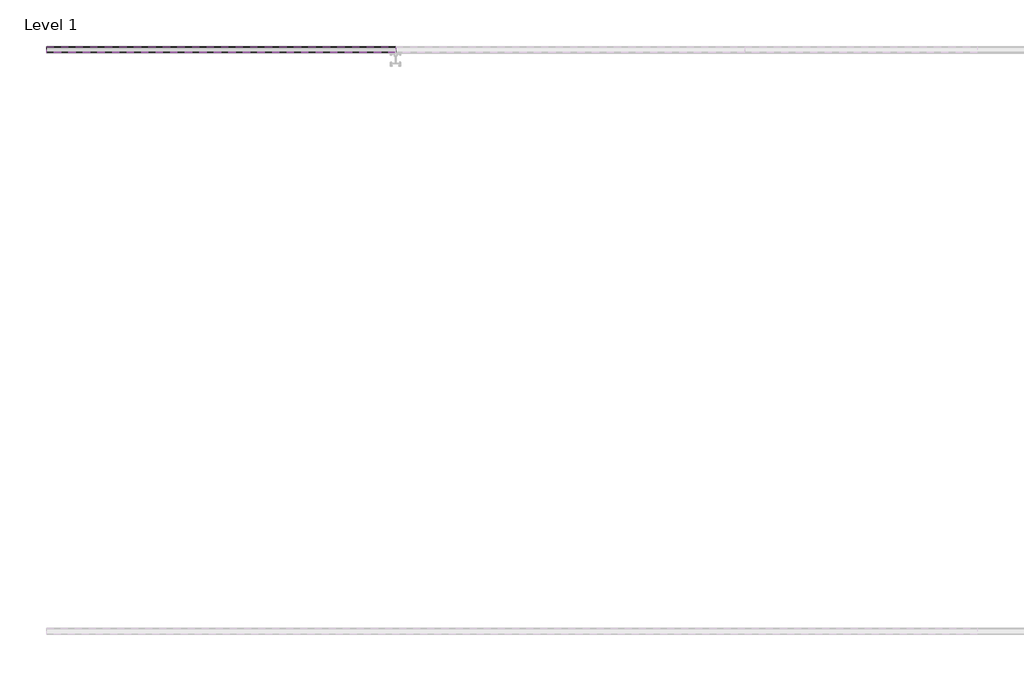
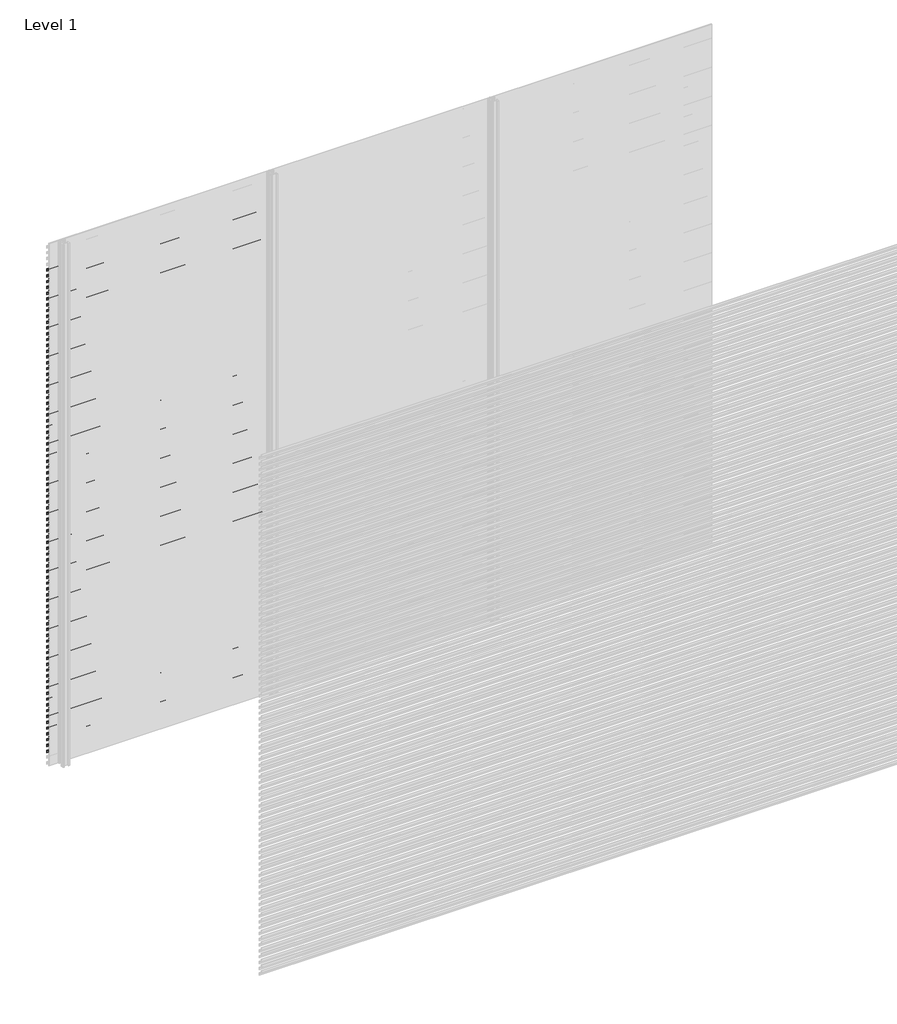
# One storey, part 31 of 507: 84 proxies.
"""IFC4 building model written with IfcOpenShell, lengths in millimetres."""

from ifc_helpers import new_model, si_unit, frame, origin, place, context, project, spatial, polyline, outline, extrude, element, save

model = new_model("IFC4")

# Units and contexts
model_context = context("Model", 3, world=origin())
ifc_project = project(units=[si_unit("LENGTHUNIT", "METRE", prefix="MILLI")], contexts=[model_context])

# Site, building, storey
site = spatial("IfcSite", under=ifc_project)
building = spatial("IfcBuilding", under=site)
storey = spatial("IfcBuildingStorey", under=building, Name="Level 1", Elevation=0.0)

# Proxies
placement = place(None, origin())
element("IfcBuildingElementProxy", 1, Name="Wall Sweeps", at=placement, inside=storey, context=model_context, shape_type="SweptSolid", body=[
    extrude(outline(polyline([(21503.4540136, 2839.8), (21503.4540136, 2826.3), (21502.2040136, 2827.0216933), (21502.2040136, 2839.0782281), (21483.0540136, 2850.1345698), (21483.0540136, 2863.8), (21484.3040136, 2863.8), (21484.3040136, 2850.8562577), (21503.4540136, 2839.8)])), frame((44966.6208097, 0.0, 0.0), z_axis=(1.0, 0.0, 0.0), x_axis=(0.0, 1.0, 0.0)), (0.0, 0.0, 1.0), 1200.0000002),
])
element("IfcBuildingElementProxy", 2, Name="Wall Sweeps", at=placement, inside=storey, context=model_context, shape_type="SweptSolid", body=[
    extrude(outline(polyline([(21503.4540136, 2806.5), (21503.4540136, 2793.0), (21502.2040136, 2793.7216933), (21502.2040136, 2805.7782281), (21483.0540136, 2816.8345698), (21483.0540136, 2830.5), (21484.3040136, 2830.5), (21484.3040136, 2817.5562577), (21503.4540136, 2806.5)])), frame((44966.6208097, 0.0, 0.0), z_axis=(1.0, 0.0, 0.0), x_axis=(0.0, 1.0, 0.0)), (0.0, 0.0, 1.0), 1200.0000002),
])
element("IfcBuildingElementProxy", 3, Name="Wall Sweeps", at=placement, inside=storey, context=model_context, shape_type="SweptSolid", body=[
    extrude(outline(polyline([(21503.4540136, 2773.2), (21503.4540136, 2759.7), (21502.2040136, 2760.4216933), (21502.2040136, 2772.4782281), (21483.0540136, 2783.5345698), (21483.0540136, 2797.2), (21484.3040136, 2797.2), (21484.3040136, 2784.2562577), (21503.4540136, 2773.2)])), frame((44966.6208097, 0.0, 0.0), z_axis=(1.0, 0.0, 0.0), x_axis=(0.0, 1.0, 0.0)), (0.0, 0.0, 1.0), 1200.0000002),
])
element("IfcBuildingElementProxy", 4, Name="Wall Sweeps", at=placement, inside=storey, context=model_context, shape_type="SweptSolid", body=[
    extrude(outline(polyline([(21503.4540136, 2739.9), (21503.4540136, 2726.4), (21502.2040136, 2727.1216933), (21502.2040136, 2739.1782281), (21483.0540136, 2750.2345698), (21483.0540136, 2763.9), (21484.3040136, 2763.9), (21484.3040136, 2750.9562577), (21503.4540136, 2739.9)])), frame((44966.6208097, 0.0, 0.0), z_axis=(1.0, 0.0, 0.0), x_axis=(0.0, 1.0, 0.0)), (0.0, 0.0, 1.0), 1200.0000002),
])
element("IfcBuildingElementProxy", 5, Name="Wall Sweeps", at=placement, inside=storey, context=model_context, shape_type="SweptSolid", body=[
    extrude(outline(polyline([(21503.4540136, 2706.6), (21503.4540136, 2693.1), (21502.2040136, 2693.8216933), (21502.2040136, 2705.8782281), (21483.0540136, 2716.9345698), (21483.0540136, 2730.6), (21484.3040136, 2730.6), (21484.3040136, 2717.6562577), (21503.4540136, 2706.6)])), frame((44966.6208097, 0.0, 0.0), z_axis=(1.0, 0.0, 0.0), x_axis=(0.0, 1.0, 0.0)), (0.0, 0.0, 1.0), 1200.0000002),
])
element("IfcBuildingElementProxy", 6, Name="Wall Sweeps", at=placement, inside=storey, context=model_context, shape_type="SweptSolid", body=[
    extrude(outline(polyline([(21503.4540136, 2673.3), (21503.4540136, 2659.8), (21502.2040136, 2660.5216933), (21502.2040136, 2672.5782281), (21483.0540136, 2683.6345698), (21483.0540136, 2697.3), (21484.3040136, 2697.3), (21484.3040136, 2684.3562577), (21503.4540136, 2673.3)])), frame((44966.6208097, 0.0, 0.0), z_axis=(1.0, 0.0, 0.0), x_axis=(0.0, 1.0, 0.0)), (0.0, 0.0, 1.0), 1200.0000002),
])
element("IfcBuildingElementProxy", 7, Name="Wall Sweeps", at=placement, inside=storey, context=model_context, shape_type="SweptSolid", body=[
    extrude(outline(polyline([(21503.4540136, 2640.0), (21503.4540136, 2626.5), (21502.2040136, 2627.2216933), (21502.2040136, 2639.2782281), (21483.0540136, 2650.3345698), (21483.0540136, 2664.0), (21484.3040136, 2664.0), (21484.3040136, 2651.0562577), (21503.4540136, 2640.0)])), frame((44966.6208097, 0.0, 0.0), z_axis=(1.0, 0.0, 0.0), x_axis=(0.0, 1.0, 0.0)), (0.0, 0.0, 1.0), 1200.0000002),
])
element("IfcBuildingElementProxy", 8, Name="Wall Sweeps", at=placement, inside=storey, context=model_context, shape_type="SweptSolid", body=[
    extrude(outline(polyline([(21503.4540136, 2606.7), (21503.4540136, 2593.2), (21502.2040136, 2593.9216933), (21502.2040136, 2605.9782281), (21483.0540136, 2617.0345698), (21483.0540136, 2630.7), (21484.3040136, 2630.7), (21484.3040136, 2617.7562577), (21503.4540136, 2606.7)])), frame((44966.6208097, 0.0, 0.0), z_axis=(1.0, 0.0, 0.0), x_axis=(0.0, 1.0, 0.0)), (0.0, 0.0, 1.0), 1200.0000002),
])
element("IfcBuildingElementProxy", 9, Name="Wall Sweeps", at=placement, inside=storey, context=model_context, shape_type="SweptSolid", body=[
    extrude(outline(polyline([(21503.4540136, 2573.4), (21503.4540136, 2559.9), (21502.2040136, 2560.6216933), (21502.2040136, 2572.6782281), (21483.0540136, 2583.7345698), (21483.0540136, 2597.4), (21484.3040136, 2597.4), (21484.3040136, 2584.4562577), (21503.4540136, 2573.4)])), frame((44966.6208097, 0.0, 0.0), z_axis=(1.0, 0.0, 0.0), x_axis=(0.0, 1.0, 0.0)), (0.0, 0.0, 1.0), 1200.0000002),
])
element("IfcBuildingElementProxy", 10, Name="Wall Sweeps", at=placement, inside=storey, context=model_context, shape_type="SweptSolid", body=[
    extrude(outline(polyline([(21503.4540136, 2540.1), (21503.4540136, 2526.6), (21502.2040136, 2527.3216933), (21502.2040136, 2539.3782281), (21483.0540136, 2550.4345698), (21483.0540136, 2564.1), (21484.3040136, 2564.1), (21484.3040136, 2551.1562577), (21503.4540136, 2540.1)])), frame((44966.6208097, 0.0, 0.0), z_axis=(1.0, 0.0, 0.0), x_axis=(0.0, 1.0, 0.0)), (0.0, 0.0, 1.0), 1200.0000002),
])
element("IfcBuildingElementProxy", 11, Name="Wall Sweeps", at=placement, inside=storey, context=model_context, shape_type="SweptSolid", body=[
    extrude(outline(polyline([(21503.4540136, 2506.8), (21503.4540136, 2493.3), (21502.2040136, 2494.0216933), (21502.2040136, 2506.0782281), (21483.0540136, 2517.1345698), (21483.0540136, 2530.8), (21484.3040136, 2530.8), (21484.3040136, 2517.8562577), (21503.4540136, 2506.8)])), frame((44966.6208097, 0.0, 0.0), z_axis=(1.0, 0.0, 0.0), x_axis=(0.0, 1.0, 0.0)), (0.0, 0.0, 1.0), 1200.0000002),
])
element("IfcBuildingElementProxy", 12, Name="Wall Sweeps", at=placement, inside=storey, context=model_context, shape_type="SweptSolid", body=[
    extrude(outline(polyline([(21503.4540136, 2473.5), (21503.4540136, 2460.0), (21502.2040136, 2460.7216933), (21502.2040136, 2472.7782281), (21483.0540136, 2483.8345698), (21483.0540136, 2497.5), (21484.3040136, 2497.5), (21484.3040136, 2484.5562577), (21503.4540136, 2473.5)])), frame((44966.6208097, 0.0, 0.0), z_axis=(1.0, 0.0, 0.0), x_axis=(0.0, 1.0, 0.0)), (0.0, 0.0, 1.0), 1200.0000002),
])
element("IfcBuildingElementProxy", 13, Name="Wall Sweeps", at=placement, inside=storey, context=model_context, shape_type="SweptSolid", body=[
    extrude(outline(polyline([(21503.4540136, 2440.2), (21503.4540136, 2426.7), (21502.2040136, 2427.4216933), (21502.2040136, 2439.4782281), (21483.0540136, 2450.5345698), (21483.0540136, 2464.2), (21484.3040136, 2464.2), (21484.3040136, 2451.2562577), (21503.4540136, 2440.2)])), frame((44966.6208097, 0.0, 0.0), z_axis=(1.0, 0.0, 0.0), x_axis=(0.0, 1.0, 0.0)), (0.0, 0.0, 1.0), 1200.0000002),
])
element("IfcBuildingElementProxy", 14, Name="Wall Sweeps", at=placement, inside=storey, context=model_context, shape_type="SweptSolid", body=[
    extrude(outline(polyline([(21503.4540136, 2406.9), (21503.4540136, 2393.4), (21502.2040136, 2394.1216933), (21502.2040136, 2406.1782281), (21483.0540136, 2417.2345698), (21483.0540136, 2430.9), (21484.3040136, 2430.9), (21484.3040136, 2417.9562577), (21503.4540136, 2406.9)])), frame((44966.6208097, 0.0, 0.0), z_axis=(1.0, 0.0, 0.0), x_axis=(0.0, 1.0, 0.0)), (0.0, 0.0, 1.0), 1200.0000002),
])
element("IfcBuildingElementProxy", 15, Name="Wall Sweeps", at=placement, inside=storey, context=model_context, shape_type="SweptSolid", body=[
    extrude(outline(polyline([(21503.4540136, 2373.6), (21503.4540136, 2360.1), (21502.2040136, 2360.8216933), (21502.2040136, 2372.8782281), (21483.0540136, 2383.9345698), (21483.0540136, 2397.6), (21484.3040136, 2397.6), (21484.3040136, 2384.6562577), (21503.4540136, 2373.6)])), frame((44966.6208097, 0.0, 0.0), z_axis=(1.0, 0.0, 0.0), x_axis=(0.0, 1.0, 0.0)), (0.0, 0.0, 1.0), 1200.0000002),
])
element("IfcBuildingElementProxy", 16, Name="Wall Sweeps", at=placement, inside=storey, context=model_context, shape_type="SweptSolid", body=[
    extrude(outline(polyline([(21503.4540136, 2340.3), (21503.4540136, 2326.8), (21502.2040136, 2327.5216933), (21502.2040136, 2339.5782281), (21483.0540136, 2350.6345698), (21483.0540136, 2364.3), (21484.3040136, 2364.3), (21484.3040136, 2351.3562577), (21503.4540136, 2340.3)])), frame((44966.6208097, 0.0, 0.0), z_axis=(1.0, 0.0, 0.0), x_axis=(0.0, 1.0, 0.0)), (0.0, 0.0, 1.0), 1200.0000002),
])
element("IfcBuildingElementProxy", 17, Name="Wall Sweeps", at=placement, inside=storey, context=model_context, shape_type="SweptSolid", body=[
    extrude(outline(polyline([(21503.4540136, 2307.0), (21503.4540136, 2293.5), (21502.2040136, 2294.2216933), (21502.2040136, 2306.2782281), (21483.0540136, 2317.3345698), (21483.0540136, 2331.0), (21484.3040136, 2331.0), (21484.3040136, 2318.0562577), (21503.4540136, 2307.0)])), frame((44966.6208097, 0.0, 0.0), z_axis=(1.0, 0.0, 0.0), x_axis=(0.0, 1.0, 0.0)), (0.0, 0.0, 1.0), 1200.0000002),
])
element("IfcBuildingElementProxy", 18, Name="Wall Sweeps", at=placement, inside=storey, context=model_context, shape_type="SweptSolid", body=[
    extrude(outline(polyline([(21503.4540136, 2273.7), (21503.4540136, 2260.2), (21502.2040136, 2260.9216933), (21502.2040136, 2272.9782281), (21483.0540136, 2284.0345698), (21483.0540136, 2297.7), (21484.3040136, 2297.7), (21484.3040136, 2284.7562577), (21503.4540136, 2273.7)])), frame((44966.6208097, 0.0, 0.0), z_axis=(1.0, 0.0, 0.0), x_axis=(0.0, 1.0, 0.0)), (0.0, 0.0, 1.0), 1200.0000002),
])
element("IfcBuildingElementProxy", 19, Name="Wall Sweeps", at=placement, inside=storey, context=model_context, shape_type="SweptSolid", body=[
    extrude(outline(polyline([(21503.4540136, 2240.4), (21503.4540136, 2226.9), (21502.2040136, 2227.6216933), (21502.2040136, 2239.6782281), (21483.0540136, 2250.7345698), (21483.0540136, 2264.4), (21484.3040136, 2264.4), (21484.3040136, 2251.4562577), (21503.4540136, 2240.4)])), frame((44966.6208097, 0.0, 0.0), z_axis=(1.0, 0.0, 0.0), x_axis=(0.0, 1.0, 0.0)), (0.0, 0.0, 1.0), 1200.0000002),
])
element("IfcBuildingElementProxy", 20, Name="Wall Sweeps", at=placement, inside=storey, context=model_context, shape_type="SweptSolid", body=[
    extrude(outline(polyline([(21503.4540136, 2207.1), (21503.4540136, 2193.6), (21502.2040136, 2194.3216933), (21502.2040136, 2206.3782281), (21483.0540136, 2217.4345698), (21483.0540136, 2231.1), (21484.3040136, 2231.1), (21484.3040136, 2218.1562577), (21503.4540136, 2207.1)])), frame((44966.6208097, 0.0, 0.0), z_axis=(1.0, 0.0, 0.0), x_axis=(0.0, 1.0, 0.0)), (0.0, 0.0, 1.0), 1200.0000002),
])
element("IfcBuildingElementProxy", 21, Name="Wall Sweeps", at=placement, inside=storey, context=model_context, shape_type="SweptSolid", body=[
    extrude(outline(polyline([(21503.4540136, 2173.8), (21503.4540136, 2160.3), (21502.2040136, 2161.0216933), (21502.2040136, 2173.0782281), (21483.0540136, 2184.1345698), (21483.0540136, 2197.8), (21484.3040136, 2197.8), (21484.3040136, 2184.8562577), (21503.4540136, 2173.8)])), frame((44966.6208097, 0.0, 0.0), z_axis=(1.0, 0.0, 0.0), x_axis=(0.0, 1.0, 0.0)), (0.0, 0.0, 1.0), 1200.0000002),
])
element("IfcBuildingElementProxy", 22, Name="Wall Sweeps", at=placement, inside=storey, context=model_context, shape_type="SweptSolid", body=[
    extrude(outline(polyline([(21503.4540136, 2140.5), (21503.4540136, 2127.0), (21502.2040136, 2127.7216933), (21502.2040136, 2139.7782281), (21483.0540136, 2150.8345698), (21483.0540136, 2164.5), (21484.3040136, 2164.5), (21484.3040136, 2151.5562577), (21503.4540136, 2140.5)])), frame((44966.6208097, 0.0, 0.0), z_axis=(1.0, 0.0, 0.0), x_axis=(0.0, 1.0, 0.0)), (0.0, 0.0, 1.0), 1200.0000002),
])
element("IfcBuildingElementProxy", 23, Name="Wall Sweeps", at=placement, inside=storey, context=model_context, shape_type="SweptSolid", body=[
    extrude(outline(polyline([(21503.4540136, 2107.2), (21503.4540136, 2093.7), (21502.2040136, 2094.4216933), (21502.2040136, 2106.4782281), (21483.0540136, 2117.5345698), (21483.0540136, 2131.2), (21484.3040136, 2131.2), (21484.3040136, 2118.2562577), (21503.4540136, 2107.2)])), frame((44966.6208097, 0.0, 0.0), z_axis=(1.0, 0.0, 0.0), x_axis=(0.0, 1.0, 0.0)), (0.0, 0.0, 1.0), 1200.0000002),
])
element("IfcBuildingElementProxy", 24, Name="Wall Sweeps", at=placement, inside=storey, context=model_context, shape_type="SweptSolid", body=[
    extrude(outline(polyline([(21503.4540136, 2073.9), (21503.4540136, 2060.4), (21502.2040136, 2061.1216933), (21502.2040136, 2073.1782281), (21483.0540136, 2084.2345698), (21483.0540136, 2097.9), (21484.3040136, 2097.9), (21484.3040136, 2084.9562577), (21503.4540136, 2073.9)])), frame((44966.6208097, 0.0, 0.0), z_axis=(1.0, 0.0, 0.0), x_axis=(0.0, 1.0, 0.0)), (0.0, 0.0, 1.0), 1200.0000002),
])
element("IfcBuildingElementProxy", 25, Name="Wall Sweeps", at=placement, inside=storey, context=model_context, shape_type="SweptSolid", body=[
    extrude(outline(polyline([(21503.4540136, 2040.6), (21503.4540136, 2027.1), (21502.2040136, 2027.8216933), (21502.2040136, 2039.8782281), (21483.0540136, 2050.9345698), (21483.0540136, 2064.6), (21484.3040136, 2064.6), (21484.3040136, 2051.6562577), (21503.4540136, 2040.6)])), frame((44966.6208097, 0.0, 0.0), z_axis=(1.0, 0.0, 0.0), x_axis=(0.0, 1.0, 0.0)), (0.0, 0.0, 1.0), 1200.0000002),
])
element("IfcBuildingElementProxy", 26, Name="Wall Sweeps", at=placement, inside=storey, context=model_context, shape_type="SweptSolid", body=[
    extrude(outline(polyline([(21503.4540136, 2007.3), (21503.4540136, 1993.8), (21502.2040136, 1994.5216933), (21502.2040136, 2006.5782281), (21483.0540136, 2017.6345698), (21483.0540136, 2031.3), (21484.3040136, 2031.3), (21484.3040136, 2018.3562577), (21503.4540136, 2007.3)])), frame((44966.6208097, 0.0, 0.0), z_axis=(1.0, 0.0, 0.0), x_axis=(0.0, 1.0, 0.0)), (0.0, 0.0, 1.0), 1200.0000002),
])
element("IfcBuildingElementProxy", 27, Name="Wall Sweeps", at=placement, inside=storey, context=model_context, shape_type="SweptSolid", body=[
    extrude(outline(polyline([(21503.4540136, 1974.0), (21503.4540136, 1960.5), (21502.2040136, 1961.2216933), (21502.2040136, 1973.2782281), (21483.0540136, 1984.3345698), (21483.0540136, 1998.0), (21484.3040136, 1998.0), (21484.3040136, 1985.0562577), (21503.4540136, 1974.0)])), frame((44966.6208097, 0.0, 0.0), z_axis=(1.0, 0.0, 0.0), x_axis=(0.0, 1.0, 0.0)), (0.0, 0.0, 1.0), 1200.0000002),
])
element("IfcBuildingElementProxy", 28, Name="Wall Sweeps", at=placement, inside=storey, context=model_context, shape_type="SweptSolid", body=[
    extrude(outline(polyline([(21503.4540136, 1940.7), (21503.4540136, 1927.2), (21502.2040136, 1927.9216933), (21502.2040136, 1939.9782281), (21483.0540136, 1951.0345698), (21483.0540136, 1964.7), (21484.3040136, 1964.7), (21484.3040136, 1951.7562577), (21503.4540136, 1940.7)])), frame((44966.6208097, 0.0, 0.0), z_axis=(1.0, 0.0, 0.0), x_axis=(0.0, 1.0, 0.0)), (0.0, 0.0, 1.0), 1200.0000002),
])
element("IfcBuildingElementProxy", 29, Name="Wall Sweeps", at=placement, inside=storey, context=model_context, shape_type="SweptSolid", body=[
    extrude(outline(polyline([(21503.4540136, 1907.4), (21503.4540136, 1893.9), (21502.2040136, 1894.6216933), (21502.2040136, 1906.6782281), (21483.0540136, 1917.7345698), (21483.0540136, 1931.4), (21484.3040136, 1931.4), (21484.3040136, 1918.4562577), (21503.4540136, 1907.4)])), frame((44966.6208097, 0.0, 0.0), z_axis=(1.0, 0.0, 0.0), x_axis=(0.0, 1.0, 0.0)), (0.0, 0.0, 1.0), 1200.0000002),
])
element("IfcBuildingElementProxy", 30, Name="Wall Sweeps", at=placement, inside=storey, context=model_context, shape_type="SweptSolid", body=[
    extrude(outline(polyline([(21503.4540136, 1874.1), (21503.4540136, 1860.6), (21502.2040136, 1861.3216933), (21502.2040136, 1873.3782281), (21483.0540136, 1884.4345698), (21483.0540136, 1898.1), (21484.3040136, 1898.1), (21484.3040136, 1885.1562577), (21503.4540136, 1874.1)])), frame((44966.6208097, 0.0, 0.0), z_axis=(1.0, 0.0, 0.0), x_axis=(0.0, 1.0, 0.0)), (0.0, 0.0, 1.0), 1200.0000002),
])
element("IfcBuildingElementProxy", 31, Name="Wall Sweeps", at=placement, inside=storey, context=model_context, shape_type="SweptSolid", body=[
    extrude(outline(polyline([(21503.4540136, 1840.8), (21503.4540136, 1827.3), (21502.2040136, 1828.0216933), (21502.2040136, 1840.0782281), (21483.0540136, 1851.1345698), (21483.0540136, 1864.8), (21484.3040136, 1864.8), (21484.3040136, 1851.8562577), (21503.4540136, 1840.8)])), frame((44966.6208097, 0.0, 0.0), z_axis=(1.0, 0.0, 0.0), x_axis=(0.0, 1.0, 0.0)), (0.0, 0.0, 1.0), 1200.0000002),
])
element("IfcBuildingElementProxy", 32, Name="Wall Sweeps", at=placement, inside=storey, context=model_context, shape_type="SweptSolid", body=[
    extrude(outline(polyline([(21503.4540136, 1807.5), (21503.4540136, 1794.0), (21502.2040136, 1794.7216933), (21502.2040136, 1806.7782281), (21483.0540136, 1817.8345698), (21483.0540136, 1831.5), (21484.3040136, 1831.5), (21484.3040136, 1818.5562577), (21503.4540136, 1807.5)])), frame((44966.6208097, 0.0, 0.0), z_axis=(1.0, 0.0, 0.0), x_axis=(0.0, 1.0, 0.0)), (0.0, 0.0, 1.0), 1200.0000002),
])
element("IfcBuildingElementProxy", 33, Name="Wall Sweeps", at=placement, inside=storey, context=model_context, shape_type="SweptSolid", body=[
    extrude(outline(polyline([(21503.4540136, 1774.2), (21503.4540136, 1760.7), (21502.2040136, 1761.4216933), (21502.2040136, 1773.4782281), (21483.0540136, 1784.5345698), (21483.0540136, 1798.2), (21484.3040136, 1798.2), (21484.3040136, 1785.2562577), (21503.4540136, 1774.2)])), frame((44966.6208097, 0.0, 0.0), z_axis=(1.0, 0.0, 0.0), x_axis=(0.0, 1.0, 0.0)), (0.0, 0.0, 1.0), 1200.0000002),
])
element("IfcBuildingElementProxy", 34, Name="Wall Sweeps", at=placement, inside=storey, context=model_context, shape_type="SweptSolid", body=[
    extrude(outline(polyline([(21503.4540136, 1740.9), (21503.4540136, 1727.4), (21502.2040136, 1728.1216933), (21502.2040136, 1740.1782281), (21483.0540136, 1751.2345698), (21483.0540136, 1764.9), (21484.3040136, 1764.9), (21484.3040136, 1751.9562577), (21503.4540136, 1740.9)])), frame((44966.6208097, 0.0, 0.0), z_axis=(1.0, 0.0, 0.0), x_axis=(0.0, 1.0, 0.0)), (0.0, 0.0, 1.0), 1200.0000002),
])
element("IfcBuildingElementProxy", 35, Name="Wall Sweeps", at=placement, inside=storey, context=model_context, shape_type="SweptSolid", body=[
    extrude(outline(polyline([(21503.4540136, 1707.6), (21503.4540136, 1694.1), (21502.2040136, 1694.8216933), (21502.2040136, 1706.8782281), (21483.0540136, 1717.9345698), (21483.0540136, 1731.6), (21484.3040136, 1731.6), (21484.3040136, 1718.6562577), (21503.4540136, 1707.6)])), frame((44966.6208097, 0.0, 0.0), z_axis=(1.0, 0.0, 0.0), x_axis=(0.0, 1.0, 0.0)), (0.0, 0.0, 1.0), 1200.0000002),
])
element("IfcBuildingElementProxy", 36, Name="Wall Sweeps", at=placement, inside=storey, context=model_context, shape_type="SweptSolid", body=[
    extrude(outline(polyline([(21503.4540136, 1674.3), (21503.4540136, 1660.8), (21502.2040136, 1661.5216933), (21502.2040136, 1673.5782281), (21483.0540136, 1684.6345698), (21483.0540136, 1698.3), (21484.3040136, 1698.3), (21484.3040136, 1685.3562577), (21503.4540136, 1674.3)])), frame((44966.6208097, 0.0, 0.0), z_axis=(1.0, 0.0, 0.0), x_axis=(0.0, 1.0, 0.0)), (0.0, 0.0, 1.0), 1200.0000002),
])
element("IfcBuildingElementProxy", 37, Name="Wall Sweeps", at=placement, inside=storey, context=model_context, shape_type="SweptSolid", body=[
    extrude(outline(polyline([(21503.4540136, 1641.0), (21503.4540136, 1627.5), (21502.2040136, 1628.2216933), (21502.2040136, 1640.2782281), (21483.0540136, 1651.3345698), (21483.0540136, 1665.0), (21484.3040136, 1665.0), (21484.3040136, 1652.0562577), (21503.4540136, 1641.0)])), frame((44966.6208097, 0.0, 0.0), z_axis=(1.0, 0.0, 0.0), x_axis=(0.0, 1.0, 0.0)), (0.0, 0.0, 1.0), 1200.0000002),
])
element("IfcBuildingElementProxy", 38, Name="Wall Sweeps", at=placement, inside=storey, context=model_context, shape_type="SweptSolid", body=[
    extrude(outline(polyline([(21503.4540136, 1607.7), (21503.4540136, 1594.2), (21502.2040136, 1594.9216933), (21502.2040136, 1606.9782281), (21483.0540136, 1618.0345698), (21483.0540136, 1631.7), (21484.3040136, 1631.7), (21484.3040136, 1618.7562577), (21503.4540136, 1607.7)])), frame((44966.6208097, 0.0, 0.0), z_axis=(1.0, 0.0, 0.0), x_axis=(0.0, 1.0, 0.0)), (0.0, 0.0, 1.0), 1200.0000002),
])
element("IfcBuildingElementProxy", 39, Name="Wall Sweeps", at=placement, inside=storey, context=model_context, shape_type="SweptSolid", body=[
    extrude(outline(polyline([(21503.4540136, 1574.4), (21503.4540136, 1560.9), (21502.2040136, 1561.6216933), (21502.2040136, 1573.6782281), (21483.0540136, 1584.7345698), (21483.0540136, 1598.4), (21484.3040136, 1598.4), (21484.3040136, 1585.4562577), (21503.4540136, 1574.4)])), frame((44966.6208097, 0.0, 0.0), z_axis=(1.0, 0.0, 0.0), x_axis=(0.0, 1.0, 0.0)), (0.0, 0.0, 1.0), 1200.0000002),
])
element("IfcBuildingElementProxy", 40, Name="Wall Sweeps", at=placement, inside=storey, context=model_context, shape_type="SweptSolid", body=[
    extrude(outline(polyline([(21503.4540136, 1541.1), (21503.4540136, 1527.6), (21502.2040136, 1528.3216933), (21502.2040136, 1540.3782281), (21483.0540136, 1551.4345698), (21483.0540136, 1565.1), (21484.3040136, 1565.1), (21484.3040136, 1552.1562577), (21503.4540136, 1541.1)])), frame((44966.6208097, 0.0, 0.0), z_axis=(1.0, 0.0, 0.0), x_axis=(0.0, 1.0, 0.0)), (0.0, 0.0, 1.0), 1200.0000002),
])
element("IfcBuildingElementProxy", 41, Name="Wall Sweeps", at=placement, inside=storey, context=model_context, shape_type="SweptSolid", body=[
    extrude(outline(polyline([(21503.4540136, 1507.8), (21503.4540136, 1494.3), (21502.2040136, 1495.0216933), (21502.2040136, 1507.0782281), (21483.0540136, 1518.1345698), (21483.0540136, 1531.8), (21484.3040136, 1531.8), (21484.3040136, 1518.8562577), (21503.4540136, 1507.8)])), frame((44966.6208097, 0.0, 0.0), z_axis=(1.0, 0.0, 0.0), x_axis=(0.0, 1.0, 0.0)), (0.0, 0.0, 1.0), 1200.0000002),
])
element("IfcBuildingElementProxy", 42, Name="Wall Sweeps", at=placement, inside=storey, context=model_context, shape_type="SweptSolid", body=[
    extrude(outline(polyline([(21503.4540136, 1474.5), (21503.4540136, 1461.0), (21502.2040136, 1461.7216933), (21502.2040136, 1473.7782281), (21483.0540136, 1484.8345698), (21483.0540136, 1498.5), (21484.3040136, 1498.5), (21484.3040136, 1485.5562577), (21503.4540136, 1474.5)])), frame((44966.6208097, 0.0, 0.0), z_axis=(1.0, 0.0, 0.0), x_axis=(0.0, 1.0, 0.0)), (0.0, 0.0, 1.0), 1200.0000002),
])
element("IfcBuildingElementProxy", 43, Name="Wall Sweeps", at=placement, inside=storey, context=model_context, shape_type="SweptSolid", body=[
    extrude(outline(polyline([(21503.4540136, 1441.2), (21503.4540136, 1427.7), (21502.2040136, 1428.4216933), (21502.2040136, 1440.4782281), (21483.0540136, 1451.5345698), (21483.0540136, 1465.2), (21484.3040136, 1465.2), (21484.3040136, 1452.2562577), (21503.4540136, 1441.2)])), frame((44966.6208097, 0.0, 0.0), z_axis=(1.0, 0.0, 0.0), x_axis=(0.0, 1.0, 0.0)), (0.0, 0.0, 1.0), 1200.0000002),
])
element("IfcBuildingElementProxy", 44, Name="Wall Sweeps", at=placement, inside=storey, context=model_context, shape_type="SweptSolid", body=[
    extrude(outline(polyline([(21503.4540136, 1407.9), (21503.4540136, 1394.4), (21502.2040136, 1395.1216933), (21502.2040136, 1407.1782281), (21483.0540136, 1418.2345698), (21483.0540136, 1431.9), (21484.3040136, 1431.9), (21484.3040136, 1418.9562577), (21503.4540136, 1407.9)])), frame((44966.6208097, 0.0, 0.0), z_axis=(1.0, 0.0, 0.0), x_axis=(0.0, 1.0, 0.0)), (0.0, 0.0, 1.0), 1200.0000002),
])
element("IfcBuildingElementProxy", 45, Name="Wall Sweeps", at=placement, inside=storey, context=model_context, shape_type="SweptSolid", body=[
    extrude(outline(polyline([(21503.4540136, 1374.6), (21503.4540136, 1361.1), (21502.2040136, 1361.8216933), (21502.2040136, 1373.8782281), (21483.0540136, 1384.9345698), (21483.0540136, 1398.6), (21484.3040136, 1398.6), (21484.3040136, 1385.6562577), (21503.4540136, 1374.6)])), frame((44966.6208097, 0.0, 0.0), z_axis=(1.0, 0.0, 0.0), x_axis=(0.0, 1.0, 0.0)), (0.0, 0.0, 1.0), 1200.0000002),
])
element("IfcBuildingElementProxy", 46, Name="Wall Sweeps", at=placement, inside=storey, context=model_context, shape_type="SweptSolid", body=[
    extrude(outline(polyline([(21503.4540136, 1341.3), (21503.4540136, 1327.8), (21502.2040136, 1328.5216933), (21502.2040136, 1340.5782281), (21483.0540136, 1351.6345698), (21483.0540136, 1365.3), (21484.3040136, 1365.3), (21484.3040136, 1352.3562577), (21503.4540136, 1341.3)])), frame((44966.6208097, 0.0, 0.0), z_axis=(1.0, 0.0, 0.0), x_axis=(0.0, 1.0, 0.0)), (0.0, 0.0, 1.0), 1200.0000002),
])
element("IfcBuildingElementProxy", 47, Name="Wall Sweeps", at=placement, inside=storey, context=model_context, shape_type="SweptSolid", body=[
    extrude(outline(polyline([(21503.4540136, 1308.0), (21503.4540136, 1294.5), (21502.2040136, 1295.2216933), (21502.2040136, 1307.2782281), (21483.0540136, 1318.3345698), (21483.0540136, 1332.0), (21484.3040136, 1332.0), (21484.3040136, 1319.0562577), (21503.4540136, 1308.0)])), frame((44966.6208097, 0.0, 0.0), z_axis=(1.0, 0.0, 0.0), x_axis=(0.0, 1.0, 0.0)), (0.0, 0.0, 1.0), 1200.0000002),
])
element("IfcBuildingElementProxy", 48, Name="Wall Sweeps", at=placement, inside=storey, context=model_context, shape_type="SweptSolid", body=[
    extrude(outline(polyline([(21503.4540136, 1274.7), (21503.4540136, 1261.2), (21502.2040136, 1261.9216933), (21502.2040136, 1273.9782281), (21483.0540136, 1285.0345698), (21483.0540136, 1298.7), (21484.3040136, 1298.7), (21484.3040136, 1285.7562577), (21503.4540136, 1274.7)])), frame((44966.6208097, 0.0, 0.0), z_axis=(1.0, 0.0, 0.0), x_axis=(0.0, 1.0, 0.0)), (0.0, 0.0, 1.0), 1200.0000002),
])
element("IfcBuildingElementProxy", 49, Name="Wall Sweeps", at=placement, inside=storey, context=model_context, shape_type="SweptSolid", body=[
    extrude(outline(polyline([(21503.4540136, 1241.4), (21503.4540136, 1227.9), (21502.2040136, 1228.6216933), (21502.2040136, 1240.6782281), (21483.0540136, 1251.7345698), (21483.0540136, 1265.4), (21484.3040136, 1265.4), (21484.3040136, 1252.4562577), (21503.4540136, 1241.4)])), frame((44966.6208097, 0.0, 0.0), z_axis=(1.0, 0.0, 0.0), x_axis=(0.0, 1.0, 0.0)), (0.0, 0.0, 1.0), 1200.0000002),
])
element("IfcBuildingElementProxy", 50, Name="Wall Sweeps", at=placement, inside=storey, context=model_context, shape_type="SweptSolid", body=[
    extrude(outline(polyline([(21503.4540136, 1208.1), (21503.4540136, 1194.6), (21502.2040136, 1195.3216933), (21502.2040136, 1207.3782281), (21483.0540136, 1218.4345698), (21483.0540136, 1232.1), (21484.3040136, 1232.1), (21484.3040136, 1219.1562577), (21503.4540136, 1208.1)])), frame((44966.6208097, 0.0, 0.0), z_axis=(1.0, 0.0, 0.0), x_axis=(0.0, 1.0, 0.0)), (0.0, 0.0, 1.0), 1200.0000002),
])
element("IfcBuildingElementProxy", 51, Name="Wall Sweeps", at=placement, inside=storey, context=model_context, shape_type="SweptSolid", body=[
    extrude(outline(polyline([(21503.4540136, 1174.8), (21503.4540136, 1161.3), (21502.2040136, 1162.0216933), (21502.2040136, 1174.0782281), (21483.0540136, 1185.1345698), (21483.0540136, 1198.8), (21484.3040136, 1198.8), (21484.3040136, 1185.8562577), (21503.4540136, 1174.8)])), frame((44966.6208097, 0.0, 0.0), z_axis=(1.0, 0.0, 0.0), x_axis=(0.0, 1.0, 0.0)), (0.0, 0.0, 1.0), 1200.0000002),
])
element("IfcBuildingElementProxy", 52, Name="Wall Sweeps", at=placement, inside=storey, context=model_context, shape_type="SweptSolid", body=[
    extrude(outline(polyline([(21503.4540136, 1141.5), (21503.4540136, 1128.0), (21502.2040136, 1128.7216933), (21502.2040136, 1140.7782281), (21483.0540136, 1151.8345698), (21483.0540136, 1165.5), (21484.3040136, 1165.5), (21484.3040136, 1152.5562577), (21503.4540136, 1141.5)])), frame((44966.6208097, 0.0, 0.0), z_axis=(1.0, 0.0, 0.0), x_axis=(0.0, 1.0, 0.0)), (0.0, 0.0, 1.0), 1200.0000002),
])
element("IfcBuildingElementProxy", 53, Name="Wall Sweeps", at=placement, inside=storey, context=model_context, shape_type="SweptSolid", body=[
    extrude(outline(polyline([(21503.4540136, 1108.2), (21503.4540136, 1094.7), (21502.2040136, 1095.4216933), (21502.2040136, 1107.4782281), (21483.0540136, 1118.5345698), (21483.0540136, 1132.2), (21484.3040136, 1132.2), (21484.3040136, 1119.2562577), (21503.4540136, 1108.2)])), frame((44966.6208097, 0.0, 0.0), z_axis=(1.0, 0.0, 0.0), x_axis=(0.0, 1.0, 0.0)), (0.0, 0.0, 1.0), 1200.0000002),
])
element("IfcBuildingElementProxy", 54, Name="Wall Sweeps", at=placement, inside=storey, context=model_context, shape_type="SweptSolid", body=[
    extrude(outline(polyline([(21503.4540136, 1074.9), (21503.4540136, 1061.4), (21502.2040136, 1062.1216933), (21502.2040136, 1074.1782281), (21483.0540136, 1085.2345698), (21483.0540136, 1098.9), (21484.3040136, 1098.9), (21484.3040136, 1085.9562577), (21503.4540136, 1074.9)])), frame((44966.6208097, 0.0, 0.0), z_axis=(1.0, 0.0, 0.0), x_axis=(0.0, 1.0, 0.0)), (0.0, 0.0, 1.0), 1200.0000002),
])
element("IfcBuildingElementProxy", 55, Name="Wall Sweeps", at=placement, inside=storey, context=model_context, shape_type="SweptSolid", body=[
    extrude(outline(polyline([(21503.4540136, 1041.6), (21503.4540136, 1028.1), (21502.2040136, 1028.8216933), (21502.2040136, 1040.8782281), (21483.0540136, 1051.9345698), (21483.0540136, 1065.6), (21484.3040136, 1065.6), (21484.3040136, 1052.6562577), (21503.4540136, 1041.6)])), frame((44966.6208097, 0.0, 0.0), z_axis=(1.0, 0.0, 0.0), x_axis=(0.0, 1.0, 0.0)), (0.0, 0.0, 1.0), 1200.0000002),
])
element("IfcBuildingElementProxy", 56, Name="Wall Sweeps", at=placement, inside=storey, context=model_context, shape_type="SweptSolid", body=[
    extrude(outline(polyline([(21503.4540136, 1008.3), (21503.4540136, 994.8), (21502.2040136, 995.5216933), (21502.2040136, 1007.5782281), (21483.0540136, 1018.6345698), (21483.0540136, 1032.3), (21484.3040136, 1032.3), (21484.3040136, 1019.3562577), (21503.4540136, 1008.3)])), frame((44966.6208097, 0.0, 0.0), z_axis=(1.0, 0.0, 0.0), x_axis=(0.0, 1.0, 0.0)), (0.0, 0.0, 1.0), 1200.0000002),
])
element("IfcBuildingElementProxy", 57, Name="Wall Sweeps", at=placement, inside=storey, context=model_context, shape_type="SweptSolid", body=[
    extrude(outline(polyline([(21503.4540136, 975.0), (21503.4540136, 961.5), (21502.2040136, 962.2216933), (21502.2040136, 974.2782281), (21483.0540136, 985.3345698), (21483.0540136, 999.0), (21484.3040136, 999.0), (21484.3040136, 986.0562577), (21503.4540136, 975.0)])), frame((44966.6208097, 0.0, 0.0), z_axis=(1.0, 0.0, 0.0), x_axis=(0.0, 1.0, 0.0)), (0.0, 0.0, 1.0), 1200.0000002),
])
element("IfcBuildingElementProxy", 58, Name="Wall Sweeps", at=placement, inside=storey, context=model_context, shape_type="SweptSolid", body=[
    extrude(outline(polyline([(21503.4540136, 941.7), (21503.4540136, 928.2), (21502.2040136, 928.9216933), (21502.2040136, 940.9782281), (21483.0540136, 952.0345698), (21483.0540136, 965.7), (21484.3040136, 965.7), (21484.3040136, 952.7562577), (21503.4540136, 941.7)])), frame((44966.6208097, 0.0, 0.0), z_axis=(1.0, 0.0, 0.0), x_axis=(0.0, 1.0, 0.0)), (0.0, 0.0, 1.0), 1200.0000002),
])
element("IfcBuildingElementProxy", 59, Name="Wall Sweeps", at=placement, inside=storey, context=model_context, shape_type="SweptSolid", body=[
    extrude(outline(polyline([(21503.4540136, 908.4), (21503.4540136, 894.9), (21502.2040136, 895.6216933), (21502.2040136, 907.6782281), (21483.0540136, 918.7345698), (21483.0540136, 932.4), (21484.3040136, 932.4), (21484.3040136, 919.4562577), (21503.4540136, 908.4)])), frame((44966.6208097, 0.0, 0.0), z_axis=(1.0, 0.0, 0.0), x_axis=(0.0, 1.0, 0.0)), (0.0, 0.0, 1.0), 1200.0000002),
])
element("IfcBuildingElementProxy", 60, Name="Wall Sweeps", at=placement, inside=storey, context=model_context, shape_type="SweptSolid", body=[
    extrude(outline(polyline([(21503.4540136, 875.1), (21503.4540136, 861.6), (21502.2040136, 862.3216933), (21502.2040136, 874.3782281), (21483.0540136, 885.4345698), (21483.0540136, 899.1), (21484.3040136, 899.1), (21484.3040136, 886.1562577), (21503.4540136, 875.1)])), frame((44966.6208097, 0.0, 0.0), z_axis=(1.0, 0.0, 0.0), x_axis=(0.0, 1.0, 0.0)), (0.0, 0.0, 1.0), 1200.0000002),
])
element("IfcBuildingElementProxy", 61, Name="Wall Sweeps", at=placement, inside=storey, context=model_context, shape_type="SweptSolid", body=[
    extrude(outline(polyline([(21503.4540136, 841.8), (21503.4540136, 828.3), (21502.2040136, 829.0216933), (21502.2040136, 841.0782281), (21483.0540136, 852.1345698), (21483.0540136, 865.8), (21484.3040136, 865.8), (21484.3040136, 852.8562577), (21503.4540136, 841.8)])), frame((44966.6208097, 0.0, 0.0), z_axis=(1.0, 0.0, 0.0), x_axis=(0.0, 1.0, 0.0)), (0.0, 0.0, 1.0), 1200.0000002),
])
element("IfcBuildingElementProxy", 62, Name="Wall Sweeps", at=placement, inside=storey, context=model_context, shape_type="SweptSolid", body=[
    extrude(outline(polyline([(21503.4540136, 808.5), (21503.4540136, 795.0), (21502.2040136, 795.7216933), (21502.2040136, 807.7782281), (21483.0540136, 818.8345698), (21483.0540136, 832.5), (21484.3040136, 832.5), (21484.3040136, 819.5562577), (21503.4540136, 808.5)])), frame((44966.6208097, 0.0, 0.0), z_axis=(1.0, 0.0, 0.0), x_axis=(0.0, 1.0, 0.0)), (0.0, 0.0, 1.0), 1200.0000002),
])
element("IfcBuildingElementProxy", 63, Name="Wall Sweeps", at=placement, inside=storey, context=model_context, shape_type="SweptSolid", body=[
    extrude(outline(polyline([(21503.4540136, 775.2), (21503.4540136, 761.7), (21502.2040136, 762.4216933), (21502.2040136, 774.4782281), (21483.0540136, 785.5345698), (21483.0540136, 799.2), (21484.3040136, 799.2), (21484.3040136, 786.2562577), (21503.4540136, 775.2)])), frame((44966.6208097, 0.0, 0.0), z_axis=(1.0, 0.0, 0.0), x_axis=(0.0, 1.0, 0.0)), (0.0, 0.0, 1.0), 1200.0000002),
])
element("IfcBuildingElementProxy", 64, Name="Wall Sweeps", at=placement, inside=storey, context=model_context, shape_type="SweptSolid", body=[
    extrude(outline(polyline([(21503.4540136, 741.9), (21503.4540136, 728.4), (21502.2040136, 729.1216933), (21502.2040136, 741.1782281), (21483.0540136, 752.2345698), (21483.0540136, 765.9), (21484.3040136, 765.9), (21484.3040136, 752.9562577), (21503.4540136, 741.9)])), frame((44966.6208097, 0.0, 0.0), z_axis=(1.0, 0.0, 0.0), x_axis=(0.0, 1.0, 0.0)), (0.0, 0.0, 1.0), 1200.0000002),
])
element("IfcBuildingElementProxy", 65, Name="Wall Sweeps", at=placement, inside=storey, context=model_context, shape_type="SweptSolid", body=[
    extrude(outline(polyline([(21503.4540136, 708.6), (21503.4540136, 695.1), (21502.2040136, 695.8216933), (21502.2040136, 707.8782281), (21483.0540136, 718.9345698), (21483.0540136, 732.6), (21484.3040136, 732.6), (21484.3040136, 719.6562577), (21503.4540136, 708.6)])), frame((44966.6208097, 0.0, 0.0), z_axis=(1.0, 0.0, 0.0), x_axis=(0.0, 1.0, 0.0)), (0.0, 0.0, 1.0), 1200.0000002),
])
element("IfcBuildingElementProxy", 66, Name="Wall Sweeps", at=placement, inside=storey, context=model_context, shape_type="SweptSolid", body=[
    extrude(outline(polyline([(21503.4540136, 675.3), (21503.4540136, 661.8), (21502.2040136, 662.5216933), (21502.2040136, 674.5782281), (21483.0540136, 685.6345698), (21483.0540136, 699.3), (21484.3040136, 699.3), (21484.3040136, 686.3562577), (21503.4540136, 675.3)])), frame((44966.6208097, 0.0, 0.0), z_axis=(1.0, 0.0, 0.0), x_axis=(0.0, 1.0, 0.0)), (0.0, 0.0, 1.0), 1200.0000002),
])
element("IfcBuildingElementProxy", 67, Name="Wall Sweeps", at=placement, inside=storey, context=model_context, shape_type="SweptSolid", body=[
    extrude(outline(polyline([(21503.4540136, 642.0), (21503.4540136, 628.5), (21502.2040136, 629.2216933), (21502.2040136, 641.2782281), (21483.0540136, 652.3345698), (21483.0540136, 666.0), (21484.3040136, 666.0), (21484.3040136, 653.0562577), (21503.4540136, 642.0)])), frame((44966.6208097, 0.0, 0.0), z_axis=(1.0, 0.0, 0.0), x_axis=(0.0, 1.0, 0.0)), (0.0, 0.0, 1.0), 1200.0000002),
])
element("IfcBuildingElementProxy", 68, Name="Wall Sweeps", at=placement, inside=storey, context=model_context, shape_type="SweptSolid", body=[
    extrude(outline(polyline([(21503.4540136, 608.7), (21503.4540136, 595.2), (21502.2040136, 595.9216933), (21502.2040136, 607.9782281), (21483.0540136, 619.0345698), (21483.0540136, 632.7), (21484.3040136, 632.7), (21484.3040136, 619.7562577), (21503.4540136, 608.7)])), frame((44966.6208097, 0.0, 0.0), z_axis=(1.0, 0.0, 0.0), x_axis=(0.0, 1.0, 0.0)), (0.0, 0.0, 1.0), 1200.0000002),
])
element("IfcBuildingElementProxy", 69, Name="Wall Sweeps", at=placement, inside=storey, context=model_context, shape_type="SweptSolid", body=[
    extrude(outline(polyline([(21503.4540136, 575.4), (21503.4540136, 561.9), (21502.2040136, 562.6216933), (21502.2040136, 574.6782281), (21483.0540136, 585.7345698), (21483.0540136, 599.4), (21484.3040136, 599.4), (21484.3040136, 586.4562577), (21503.4540136, 575.4)])), frame((44966.6208097, 0.0, 0.0), z_axis=(1.0, 0.0, 0.0), x_axis=(0.0, 1.0, 0.0)), (0.0, 0.0, 1.0), 1200.0000002),
])
element("IfcBuildingElementProxy", 70, Name="Wall Sweeps", at=placement, inside=storey, context=model_context, shape_type="SweptSolid", body=[
    extrude(outline(polyline([(21503.4540136, 542.1), (21503.4540136, 528.6), (21502.2040136, 529.3216933), (21502.2040136, 541.3782281), (21483.0540136, 552.4345698), (21483.0540136, 566.1), (21484.3040136, 566.1), (21484.3040136, 553.1562577), (21503.4540136, 542.1)])), frame((44966.6208097, 0.0, 0.0), z_axis=(1.0, 0.0, 0.0), x_axis=(0.0, 1.0, 0.0)), (0.0, 0.0, 1.0), 1200.0000002),
])
element("IfcBuildingElementProxy", 71, Name="Wall Sweeps", at=placement, inside=storey, context=model_context, shape_type="SweptSolid", body=[
    extrude(outline(polyline([(21503.4540136, 508.8), (21503.4540136, 495.3), (21502.2040136, 496.0216933), (21502.2040136, 508.0782281), (21483.0540136, 519.1345698), (21483.0540136, 532.8), (21484.3040136, 532.8), (21484.3040136, 519.8562577), (21503.4540136, 508.8)])), frame((44966.6208097, 0.0, 0.0), z_axis=(1.0, 0.0, 0.0), x_axis=(0.0, 1.0, 0.0)), (0.0, 0.0, 1.0), 1200.0000002),
])
element("IfcBuildingElementProxy", 72, Name="Wall Sweeps", at=placement, inside=storey, context=model_context, shape_type="SweptSolid", body=[
    extrude(outline(polyline([(21503.4540136, 475.5), (21503.4540136, 462.0), (21502.2040136, 462.7216933), (21502.2040136, 474.7782281), (21483.0540136, 485.8345698), (21483.0540136, 499.5), (21484.3040136, 499.5), (21484.3040136, 486.5562577), (21503.4540136, 475.5)])), frame((44966.6208097, 0.0, 0.0), z_axis=(1.0, 0.0, 0.0), x_axis=(0.0, 1.0, 0.0)), (0.0, 0.0, 1.0), 1200.0000002),
])
element("IfcBuildingElementProxy", 73, Name="Wall Sweeps", at=placement, inside=storey, context=model_context, shape_type="SweptSolid", body=[
    extrude(outline(polyline([(21503.4540136, 442.2), (21503.4540136, 428.7), (21502.2040136, 429.4216933), (21502.2040136, 441.4782281), (21483.0540136, 452.5345698), (21483.0540136, 466.2), (21484.3040136, 466.2), (21484.3040136, 453.2562577), (21503.4540136, 442.2)])), frame((44966.6208097, 0.0, 0.0), z_axis=(1.0, 0.0, 0.0), x_axis=(0.0, 1.0, 0.0)), (0.0, 0.0, 1.0), 1200.0000002),
])
element("IfcBuildingElementProxy", 74, Name="Wall Sweeps", at=placement, inside=storey, context=model_context, shape_type="SweptSolid", body=[
    extrude(outline(polyline([(21503.4540136, 408.9), (21503.4540136, 395.4), (21502.2040136, 396.1216933), (21502.2040136, 408.1782281), (21483.0540136, 419.2345698), (21483.0540136, 432.9), (21484.3040136, 432.9), (21484.3040136, 419.9562577), (21503.4540136, 408.9)])), frame((44966.6208097, 0.0, 0.0), z_axis=(1.0, 0.0, 0.0), x_axis=(0.0, 1.0, 0.0)), (0.0, 0.0, 1.0), 1200.0000002),
])
element("IfcBuildingElementProxy", 75, Name="Wall Sweeps", at=placement, inside=storey, context=model_context, shape_type="SweptSolid", body=[
    extrude(outline(polyline([(21503.4540136, 375.6), (21503.4540136, 362.1), (21502.2040136, 362.8216933), (21502.2040136, 374.8782281), (21483.0540136, 385.9345698), (21483.0540136, 399.6), (21484.3040136, 399.6), (21484.3040136, 386.6562577), (21503.4540136, 375.6)])), frame((44966.6208097, 0.0, 0.0), z_axis=(1.0, 0.0, 0.0), x_axis=(0.0, 1.0, 0.0)), (0.0, 0.0, 1.0), 1200.0000002),
])
element("IfcBuildingElementProxy", 76, Name="Wall Sweeps", at=placement, inside=storey, context=model_context, shape_type="SweptSolid", body=[
    extrude(outline(polyline([(21503.4540136, 342.3), (21503.4540136, 328.8), (21502.2040136, 329.5216933), (21502.2040136, 341.5782281), (21483.0540136, 352.6345698), (21483.0540136, 366.3), (21484.3040136, 366.3), (21484.3040136, 353.3562577), (21503.4540136, 342.3)])), frame((44966.6208097, 0.0, 0.0), z_axis=(1.0, 0.0, 0.0), x_axis=(0.0, 1.0, 0.0)), (0.0, 0.0, 1.0), 1200.0000002),
])
element("IfcBuildingElementProxy", 77, Name="Wall Sweeps", at=placement, inside=storey, context=model_context, shape_type="SweptSolid", body=[
    extrude(outline(polyline([(21503.4540136, 309.0), (21503.4540136, 295.5), (21502.2040136, 296.2216933), (21502.2040136, 308.2782281), (21483.0540136, 319.3345698), (21483.0540136, 333.0), (21484.3040136, 333.0), (21484.3040136, 320.0562577), (21503.4540136, 309.0)])), frame((44966.6208097, 0.0, 0.0), z_axis=(1.0, 0.0, 0.0), x_axis=(0.0, 1.0, 0.0)), (0.0, 0.0, 1.0), 1200.0000002),
])
element("IfcBuildingElementProxy", 78, Name="Wall Sweeps", at=placement, inside=storey, context=model_context, shape_type="SweptSolid", body=[
    extrude(outline(polyline([(21503.4540136, 275.7), (21503.4540136, 262.2), (21502.2040136, 262.9216933), (21502.2040136, 274.9782281), (21483.0540136, 286.0345698), (21483.0540136, 299.7), (21484.3040136, 299.7), (21484.3040136, 286.7562577), (21503.4540136, 275.7)])), frame((44966.6208097, 0.0, 0.0), z_axis=(1.0, 0.0, 0.0), x_axis=(0.0, 1.0, 0.0)), (0.0, 0.0, 1.0), 1200.0000002),
])
element("IfcBuildingElementProxy", 79, Name="Wall Sweeps", at=placement, inside=storey, context=model_context, shape_type="SweptSolid", body=[
    extrude(outline(polyline([(21503.4540136, 242.4), (21503.4540136, 228.9), (21502.2040136, 229.6216933), (21502.2040136, 241.6782281), (21483.0540136, 252.7345698), (21483.0540136, 266.4), (21484.3040136, 266.4), (21484.3040136, 253.4562577), (21503.4540136, 242.4)])), frame((44966.6208097, 0.0, 0.0), z_axis=(1.0, 0.0, 0.0), x_axis=(0.0, 1.0, 0.0)), (0.0, 0.0, 1.0), 1200.0000002),
])
element("IfcBuildingElementProxy", 80, Name="Wall Sweeps", at=placement, inside=storey, context=model_context, shape_type="SweptSolid", body=[
    extrude(outline(polyline([(21503.4540136, 209.1), (21503.4540136, 195.6), (21502.2040136, 196.3216933), (21502.2040136, 208.3782281), (21483.0540136, 219.4345698), (21483.0540136, 233.1), (21484.3040136, 233.1), (21484.3040136, 220.1562577), (21503.4540136, 209.1)])), frame((44966.6208097, 0.0, 0.0), z_axis=(1.0, 0.0, 0.0), x_axis=(0.0, 1.0, 0.0)), (0.0, 0.0, 1.0), 1200.0000002),
])
element("IfcBuildingElementProxy", 81, Name="Wall Sweeps", at=placement, inside=storey, context=model_context, shape_type="SweptSolid", body=[
    extrude(outline(polyline([(21503.4540136, 175.8), (21503.4540136, 162.3), (21502.2040136, 163.0216933), (21502.2040136, 175.0782281), (21483.0540136, 186.1345698), (21483.0540136, 199.8), (21484.3040136, 199.8), (21484.3040136, 186.8562577), (21503.4540136, 175.8)])), frame((44966.6208097, 0.0, 0.0), z_axis=(1.0, 0.0, 0.0), x_axis=(0.0, 1.0, 0.0)), (0.0, 0.0, 1.0), 1200.0000002),
])
element("IfcBuildingElementProxy", 82, Name="Wall Sweeps", at=placement, inside=storey, context=model_context, shape_type="SweptSolid", body=[
    extrude(outline(polyline([(21503.4540136, 142.5), (21503.4540136, 129.0), (21502.2040136, 129.7216933), (21502.2040136, 141.7782281), (21483.0540136, 152.8345698), (21483.0540136, 166.5), (21484.3040136, 166.5), (21484.3040136, 153.5562577), (21503.4540136, 142.5)])), frame((44966.6208097, 0.0, 0.0), z_axis=(1.0, 0.0, 0.0), x_axis=(0.0, 1.0, 0.0)), (0.0, 0.0, 1.0), 1200.0000002),
])
element("IfcBuildingElementProxy", 83, Name="Wall Sweeps", at=placement, inside=storey, context=model_context, shape_type="SweptSolid", body=[
    extrude(outline(polyline([(21503.4540136, 109.2), (21503.4540136, 95.7), (21502.2040136, 96.4216933), (21502.2040136, 108.4782281), (21483.0540136, 119.5345698), (21483.0540136, 133.2), (21484.3040136, 133.2), (21484.3040136, 120.2562577), (21503.4540136, 109.2)])), frame((44966.6208097, 0.0, 0.0), z_axis=(1.0, 0.0, 0.0), x_axis=(0.0, 1.0, 0.0)), (0.0, 0.0, 1.0), 1200.0000002),
])
element("IfcBuildingElementProxy", 84, Name="Wall Sweeps", at=placement, inside=storey, context=model_context, shape_type="SweptSolid", body=[
    extrude(outline(polyline([(21503.4540136, 75.9), (21503.4540136, 62.4), (21502.2040136, 63.1216933), (21502.2040136, 75.1782281), (21483.0540136, 86.2345698), (21483.0540136, 99.9), (21484.3040136, 99.9), (21484.3040136, 86.9562577), (21503.4540136, 75.9)])), frame((44966.6208097, 0.0, 0.0), z_axis=(1.0, 0.0, 0.0), x_axis=(0.0, 1.0, 0.0)), (0.0, 0.0, 1.0), 1200.0000002),
])

save(model, "model.ifc")
